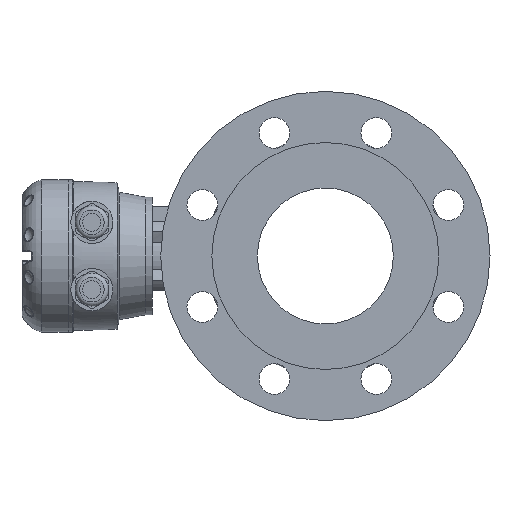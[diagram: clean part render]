
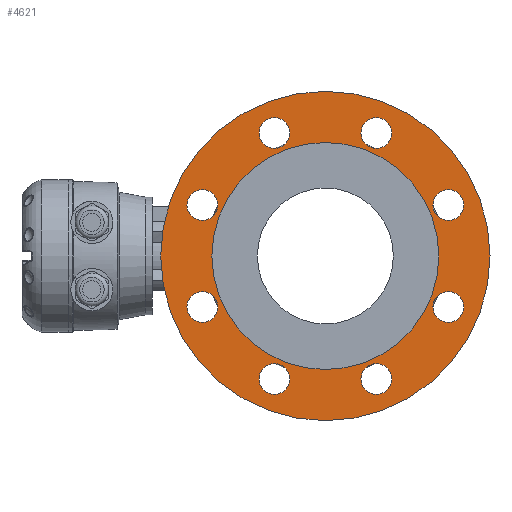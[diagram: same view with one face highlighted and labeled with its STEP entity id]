
A CAD part, left-side view. The second image highlights one B-rep face of the part: STEP entity #4621.
In plain terms, the highlighted planar face has unit normal (-1, 0, 0).
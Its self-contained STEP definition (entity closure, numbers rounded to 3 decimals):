
#81 = EDGE_CURVE ( 'NONE', #5512, #5512, #13835, .T. ) ;
#345 = CARTESIAN_POINT ( 'NONE',  ( -114.805, -117.017, -10.543 ) ) ;
#350 = DIRECTION ( 'NONE',  ( -1., 0., 0. ) ) ;
#351 = DIRECTION ( 'NONE',  ( 0., 0., -1. ) ) ;
#634 = PLANE ( 'NONE',  #15533 ) ;
#2929 = EDGE_LOOP ( 'NONE', ( #13344 ) ) ;
#3429 = EDGE_LOOP ( 'NONE', ( #13353 ) ) ;
#3430 = EDGE_LOOP ( 'NONE', ( #13352 ) ) ;
#3431 = EDGE_LOOP ( 'NONE', ( #13351 ) ) ;
#3432 = EDGE_LOOP ( 'NONE', ( #13350 ) ) ;
#3433 = EDGE_LOOP ( 'NONE', ( #13349 ) ) ;
#3434 = EDGE_LOOP ( 'NONE', ( #13348 ) ) ;
#3435 = EDGE_LOOP ( 'NONE', ( #13347 ) ) ;
#3436 = EDGE_LOOP ( 'NONE', ( #13346 ) ) ;
#3437 = EDGE_LOOP ( 'NONE', ( #13345 ) ) ;
#3848 = CIRCLE ( 'NONE', #15826, 11. ) ;
#3861 = CIRCLE ( 'NONE', #15821, 11. ) ;
#3881 = CIRCLE ( 'NONE', #15833, 81. ) ;
#3971 = CIRCLE ( 'NONE', #15851, 11. ) ;
#3987 = CIRCLE ( 'NONE', #15849, 11. ) ;
#4022 = CIRCLE ( 'NONE', #15861, 11. ) ;
#4235 = CIRCLE ( 'NONE', #4831, 11. ) ;
#4292 = CIRCLE ( 'NONE', #4840, 11. ) ;
#4294 = CIRCLE ( 'NONE', #4844, 117.5 ) ;
#4621 = ADVANCED_FACE ( 'NONE', ( #14172, #14178, #14180, #14182, #14176, #14171, #14179, #14181, #14183, #14177 ), #634, .T. ) ;
#4831 = AXIS2_PLACEMENT_3D ( 'NONE', #4983, #4993, #4994 ) ;
#4840 = AXIS2_PLACEMENT_3D ( 'NONE', #5142, #5146, #5147 ) ;
#4844 = AXIS2_PLACEMENT_3D ( 'NONE', #5145, #5151, #5152 ) ;
#4983 = CARTESIAN_POINT ( 'NONE',  ( -114.805, -80.662, 77.226 ) ) ;
#4993 = DIRECTION ( 'NONE',  ( -1., 0., 0. ) ) ;
#4994 = DIRECTION ( 'NONE',  ( 0., 0., 1. ) ) ;
#5142 = CARTESIAN_POINT ( 'NONE',  ( -114.805, -204.785, 25.812 ) ) ;
#5145 = CARTESIAN_POINT ( 'NONE',  ( -114.805, -117.017, -10.543 ) ) ;
#5146 = DIRECTION ( 'NONE',  ( -1., 0., 0. ) ) ;
#5147 = DIRECTION ( 'NONE',  ( 0., 0., 1. ) ) ;
#5151 = DIRECTION ( 'NONE',  ( 1., 0., 0. ) ) ;
#5152 = DIRECTION ( 'NONE',  ( 0., 0., -1. ) ) ;
#5512 = VERTEX_POINT ( 'NONE', #5513 ) ;
#5513 = CARTESIAN_POINT ( 'NONE',  ( -114.805, -204.785, -35.898 ) ) ;
#5648 = VERTEX_POINT ( 'NONE', #5649 ) ;
#5649 = CARTESIAN_POINT ( 'NONE',  ( -114.805, -153.372, -87.311 ) ) ;
#5650 = VERTEX_POINT ( 'NONE', #5651 ) ;
#5651 = CARTESIAN_POINT ( 'NONE',  ( -114.805, -29.248, -35.898 ) ) ;
#5654 = VERTEX_POINT ( 'NONE', #5655 ) ;
#5655 = CARTESIAN_POINT ( 'NONE',  ( -114.805, -117.017, -91.543 ) ) ;
#5672 = VERTEX_POINT ( 'NONE', #5673 ) ;
#5673 = CARTESIAN_POINT ( 'NONE',  ( -114.805, -29.248, 36.812 ) ) ;
#5674 = VERTEX_POINT ( 'NONE', #5675 ) ;
#5675 = CARTESIAN_POINT ( 'NONE',  ( -114.805, -80.662, -87.311 ) ) ;
#5680 = VERTEX_POINT ( 'NONE', #5681 ) ;
#5681 = CARTESIAN_POINT ( 'NONE',  ( -114.805, -153.372, 88.226 ) ) ;
#5712 = VERTEX_POINT ( 'NONE', #5713 ) ;
#5713 = CARTESIAN_POINT ( 'NONE',  ( -114.805, -80.662, 88.226 ) ) ;
#5720 = VERTEX_POINT ( 'NONE', #5721 ) ;
#5721 = CARTESIAN_POINT ( 'NONE',  ( -114.805, -204.785, 36.812 ) ) ;
#5724 = VERTEX_POINT ( 'NONE', #5725 ) ;
#5725 = CARTESIAN_POINT ( 'NONE',  ( -114.805, -117.017, -128.043 ) ) ;
#9359 = CARTESIAN_POINT ( 'NONE',  ( -114.805, -153.372, -98.311 ) ) ;
#9361 = DIRECTION ( 'NONE',  ( -1., 0., 0. ) ) ;
#9362 = DIRECTION ( 'NONE',  ( 0., 0., 1. ) ) ;
#9368 = CARTESIAN_POINT ( 'NONE',  ( -114.805, -29.248, -46.898 ) ) ;
#9380 = DIRECTION ( 'NONE',  ( -1., 0., 0. ) ) ;
#9381 = DIRECTION ( 'NONE',  ( 0., 0., 1. ) ) ;
#9405 = CARTESIAN_POINT ( 'NONE',  ( -114.805, -117.017, -10.543 ) ) ;
#9408 = DIRECTION ( 'NONE',  ( 1., 0., 0. ) ) ;
#9409 = DIRECTION ( 'NONE',  ( 0., 0., -1. ) ) ;
#9561 = CARTESIAN_POINT ( 'NONE',  ( -114.805, -29.248, 25.812 ) ) ;
#9564 = DIRECTION ( 'NONE',  ( -1., 0., 0. ) ) ;
#9565 = DIRECTION ( 'NONE',  ( 0., 0., 1. ) ) ;
#9589 = CARTESIAN_POINT ( 'NONE',  ( -114.805, -80.662, -98.311 ) ) ;
#9598 = DIRECTION ( 'NONE',  ( -1., 0., 0. ) ) ;
#9599 = DIRECTION ( 'NONE',  ( 0., 0., 1. ) ) ;
#9651 = CARTESIAN_POINT ( 'NONE',  ( -114.805, -153.372, 77.226 ) ) ;
#9656 = DIRECTION ( 'NONE',  ( -1., 0., 0. ) ) ;
#9657 = DIRECTION ( 'NONE',  ( 0., 0., 1. ) ) ;
#12247 = DIRECTION ( 'NONE',  ( 0., 0., 1. ) ) ;
#12271 = CARTESIAN_POINT ( 'NONE',  ( -114.805, -204.785, -46.898 ) ) ;
#12363 = DIRECTION ( 'NONE',  ( -1., 0., 0. ) ) ;
#13344 = ORIENTED_EDGE ( 'NONE', *, *, #15010, .F. ) ;
#13345 = ORIENTED_EDGE ( 'NONE', *, *, #15189, .F. ) ;
#13346 = ORIENTED_EDGE ( 'NONE', *, *, #15044, .F. ) ;
#13347 = ORIENTED_EDGE ( 'NONE', *, *, #15234, .F. ) ;
#13348 = ORIENTED_EDGE ( 'NONE', *, *, #81, .F. ) ;
#13349 = ORIENTED_EDGE ( 'NONE', *, *, #14931, .F. ) ;
#13350 = ORIENTED_EDGE ( 'NONE', *, *, #15022, .F. ) ;
#13351 = ORIENTED_EDGE ( 'NONE', *, *, #14939, .F. ) ;
#13352 = ORIENTED_EDGE ( 'NONE', *, *, #15236, .F. ) ;
#13353 = ORIENTED_EDGE ( 'NONE', *, *, #14951, .T. ) ;
#13835 = CIRCLE ( 'NONE', #15356, 11. ) ;
#14171 = FACE_BOUND ( 'NONE', #3433, .T. ) ;
#14172 = FACE_BOUND ( 'NONE', #2929, .T. ) ;
#14176 = FACE_BOUND ( 'NONE', #3434, .T. ) ;
#14177 = FACE_BOUND ( 'NONE', #3429, .T. ) ;
#14178 = FACE_BOUND ( 'NONE', #3437, .T. ) ;
#14179 = FACE_BOUND ( 'NONE', #3432, .T. ) ;
#14180 = FACE_BOUND ( 'NONE', #3436, .T. ) ;
#14181 = FACE_BOUND ( 'NONE', #3431, .T. ) ;
#14182 = FACE_BOUND ( 'NONE', #3435, .T. ) ;
#14183 = FACE_OUTER_BOUND ( 'NONE', #3430, .T. ) ;
#14931 = EDGE_CURVE ( 'NONE', #5648, #5648, #3848, .T. ) ;
#14939 = EDGE_CURVE ( 'NONE', #5650, #5650, #3861, .T. ) ;
#14951 = EDGE_CURVE ( 'NONE', #5654, #5654, #3881, .T. ) ;
#15010 = EDGE_CURVE ( 'NONE', #5672, #5672, #3971, .T. ) ;
#15022 = EDGE_CURVE ( 'NONE', #5674, #5674, #3987, .T. ) ;
#15044 = EDGE_CURVE ( 'NONE', #5680, #5680, #4022, .T. ) ;
#15189 = EDGE_CURVE ( 'NONE', #5712, #5712, #4235, .T. ) ;
#15234 = EDGE_CURVE ( 'NONE', #5720, #5720, #4292, .T. ) ;
#15236 = EDGE_CURVE ( 'NONE', #5724, #5724, #4294, .T. ) ;
#15356 = AXIS2_PLACEMENT_3D ( 'NONE', #12271, #12363, #12247 ) ;
#15533 = AXIS2_PLACEMENT_3D ( 'NONE', #345, #350, #351 ) ;
#15821 = AXIS2_PLACEMENT_3D ( 'NONE', #9368, #9380, #9381 ) ;
#15826 = AXIS2_PLACEMENT_3D ( 'NONE', #9359, #9361, #9362 ) ;
#15833 = AXIS2_PLACEMENT_3D ( 'NONE', #9405, #9408, #9409 ) ;
#15849 = AXIS2_PLACEMENT_3D ( 'NONE', #9589, #9598, #9599 ) ;
#15851 = AXIS2_PLACEMENT_3D ( 'NONE', #9561, #9564, #9565 ) ;
#15861 = AXIS2_PLACEMENT_3D ( 'NONE', #9651, #9656, #9657 ) ;
